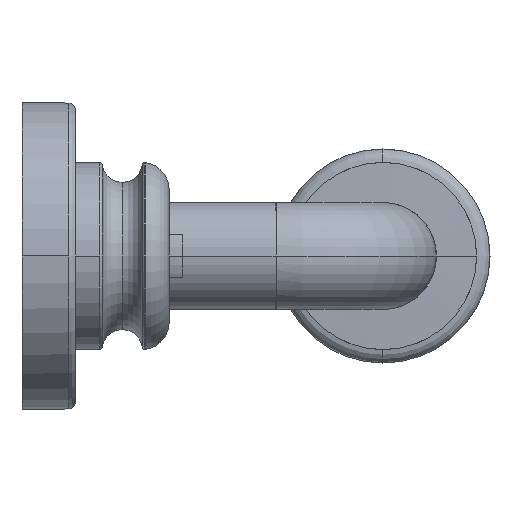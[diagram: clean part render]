
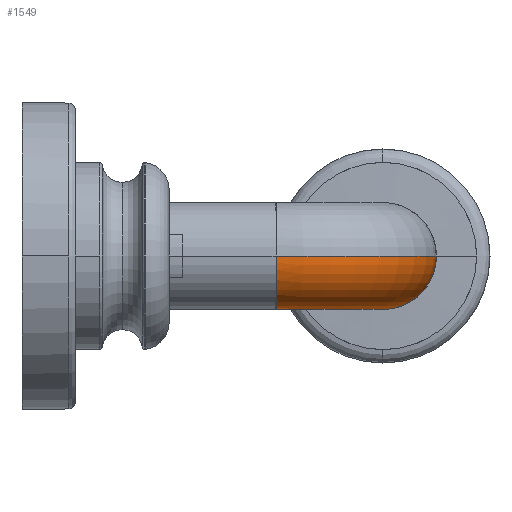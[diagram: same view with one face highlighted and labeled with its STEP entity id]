
A CAD part, left-side view. The second image highlights one B-rep face of the part: STEP entity #1549.
In plain terms, the highlighted toroidal (fillet/blend) face has major radius 8 mm and minor radius 4 mm.
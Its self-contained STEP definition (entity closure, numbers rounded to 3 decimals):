
#811 = VERTEX_POINT( '', #2172 );
#865 = VERTEX_POINT( '', #2232 );
#1059 = EDGE_CURVE( '', #1493, #1977, #2448, .T. );
#1085 = VERTEX_POINT( '', #2475 );
#1171 = VERTEX_POINT( '', #2566 );
#1313 = EDGE_CURVE( '', #1977, #811, #2726, .T. );
#1325 = EDGE_CURVE( '', #865, #1085, #2740, .T. );
#1493 = VERTEX_POINT( '', #2928 );
#1549 = ADVANCED_FACE( '', ( #2994 ), #2995, .T. );
#1569 = EDGE_CURVE( '', #811, #1171, #3017, .T. );
#1581 = EDGE_CURVE( '', #1085, #1171, #3030, .T. );
#1597 = EDGE_CURVE( '', #1493, #1891, #3046, .T. );
#1613 = EDGE_CURVE( '', #865, #1891, #3064, .T. );
#1891 = VERTEX_POINT( '', #3373 );
#1977 = VERTEX_POINT( '', #3467 );
#2172 = CARTESIAN_POINT( '', ( -4., -19., 0. ) );
#2232 = CARTESIAN_POINT( '', ( 8., -22.98, 0. ) );
#2448 = B_SPLINE_CURVE_WITH_KNOTS( '', 3, ( #4043, #4044, #4045, #4046, #4047, #4048 ), .UNSPECIFIED., .F., .F., ( 4, 2, 4 ), ( -0.008, 0., 0.012 ), .UNSPECIFIED. );
#2475 = CARTESIAN_POINT( '', ( 8., -26.99, -4. ) );
#2566 = CARTESIAN_POINT( '', ( 8., -30.98, 0. ) );
#2726 = B_SPLINE_CURVE_WITH_KNOTS( '', 3, ( #4398, #4399, #4400, #4401, #4402, #4403, #4404, #4405, #4406, #4407, #4408, #4409, #4410, #4411, #4412, #4413, #4414, #4415, #4416, #4417, #4418, #4419, #4420, #4421, #4422, #4423, #4424, #4425, #4426, #4427, #4428, #4429, #4430, #4431, #4432 ), .UNSPECIFIED., .F., .F., ( 4, 2, 2, 2, 2, 2, 2, 2, 3, 2, 2, 2, 2, 2, 2, 2, 4 ), ( 17.772, 18.512, 19.253, 19.993, 20.734, 21.474, 22.214, 22.955, 23.695, 24.436, 25.176, 25.917, 26.657, 27.398, 28.138, 28.879, 29.619 ), .UNSPECIFIED. );
#2740 = CIRCLE( '', #4447, 4. );
#2928 = CARTESIAN_POINT( '', ( 0., -18.98, -4. ) );
#2994 = FACE_OUTER_BOUND( '', #4771, .T. );
#2995 = TOROIDAL_SURFACE( '', #4772, 8., 4. );
#3017 = CIRCLE( '', #4801, 12. );
#3030 = CIRCLE( '', #4820, 4. );
#3046 = CIRCLE( '', #4841, 4. );
#3064 = CIRCLE( '', #4862, 4. );
#3373 = CARTESIAN_POINT( '', ( 4., -18.98, 0. ) );
#3467 = CARTESIAN_POINT( '', ( 0., -19., -4. ) );
#4043 = CARTESIAN_POINT( '', ( 0., -18.98, -4. ) );
#4044 = CARTESIAN_POINT( '', ( 0., -18.983, -4. ) );
#4045 = CARTESIAN_POINT( '', ( 0., -18.985, -4. ) );
#4046 = CARTESIAN_POINT( '', ( 0., -18.992, -4. ) );
#4047 = CARTESIAN_POINT( '', ( 0., -18.996, -4. ) );
#4048 = CARTESIAN_POINT( '', ( 0., -19., -4. ) );
#4398 = CARTESIAN_POINT( '', ( 0., -19., -4. ) );
#4399 = CARTESIAN_POINT( '', ( -0.247, -19., -4. ) );
#4400 = CARTESIAN_POINT( '', ( -0.516, -19., -3.976 ) );
#4401 = CARTESIAN_POINT( '', ( -1.044, -19., -3.871 ) );
#4402 = CARTESIAN_POINT( '', ( -1.303, -19., -3.79 ) );
#4403 = CARTESIAN_POINT( '', ( -1.759, -19., -3.601 ) );
#4404 = CARTESIAN_POINT( '', ( -1.998, -19., -3.475 ) );
#4405 = CARTESIAN_POINT( '', ( -2.446, -19., -3.176 ) );
#4406 = CARTESIAN_POINT( '', ( -2.654, -19., -3.003 ) );
#4407 = CARTESIAN_POINT( '', ( -3.003, -19., -2.654 ) );
#4408 = CARTESIAN_POINT( '', ( -3.176, -19., -2.446 ) );
#4409 = CARTESIAN_POINT( '', ( -3.475, -19., -1.998 ) );
#4410 = CARTESIAN_POINT( '', ( -3.601, -19., -1.759 ) );
#4411 = CARTESIAN_POINT( '', ( -3.79, -19., -1.303 ) );
#4412 = CARTESIAN_POINT( '', ( -3.871, -19., -1.044 ) );
#4413 = CARTESIAN_POINT( '', ( -3.976, -19., -0.516 ) );
#4414 = CARTESIAN_POINT( '', ( -4., -19., -0.247 ) );
#4415 = CARTESIAN_POINT( '', ( -4., -19., 0. ) );
#4416 = CARTESIAN_POINT( '', ( -4., -19., 0.247 ) );
#4417 = CARTESIAN_POINT( '', ( -3.976, -19., 0.516 ) );
#4418 = CARTESIAN_POINT( '', ( -3.871, -19., 1.044 ) );
#4419 = CARTESIAN_POINT( '', ( -3.79, -19., 1.303 ) );
#4420 = CARTESIAN_POINT( '', ( -3.601, -19., 1.759 ) );
#4421 = CARTESIAN_POINT( '', ( -3.475, -19., 1.998 ) );
#4422 = CARTESIAN_POINT( '', ( -3.176, -19., 2.446 ) );
#4423 = CARTESIAN_POINT( '', ( -3.003, -19., 2.654 ) );
#4424 = CARTESIAN_POINT( '', ( -2.654, -19., 3.003 ) );
#4425 = CARTESIAN_POINT( '', ( -2.446, -19., 3.176 ) );
#4426 = CARTESIAN_POINT( '', ( -1.998, -19., 3.475 ) );
#4427 = CARTESIAN_POINT( '', ( -1.759, -19., 3.601 ) );
#4428 = CARTESIAN_POINT( '', ( -1.303, -19., 3.79 ) );
#4429 = CARTESIAN_POINT( '', ( -1.044, -19., 3.871 ) );
#4430 = CARTESIAN_POINT( '', ( -0.516, -19., 3.976 ) );
#4431 = CARTESIAN_POINT( '', ( -0.247, -19., 4. ) );
#4432 = CARTESIAN_POINT( '', ( 0., -19., 4. ) );
#4447 = AXIS2_PLACEMENT_3D( '', #6413, #6414, #6415 );
#4771 = EDGE_LOOP( '', ( #6780, #6781, #6782, #6783, #6784, #6785, #6786 ) );
#4772 = AXIS2_PLACEMENT_3D( '', #6787, #6788, #6789 );
#4801 = AXIS2_PLACEMENT_3D( '', #6826, #6827, #6828 );
#4820 = AXIS2_PLACEMENT_3D( '', #6847, #6848, #6849 );
#4841 = AXIS2_PLACEMENT_3D( '', #6862, #6863, #6864 );
#4862 = AXIS2_PLACEMENT_3D( '', #6888, #6889, #6890 );
#6413 = CARTESIAN_POINT( '', ( 8., -26.98, 0. ) );
#6414 = DIRECTION( '', ( -1., 0., 0. ) );
#6415 = DIRECTION( '', ( 0., 1., 0. ) );
#6780 = ORIENTED_EDGE( '', *, *, #1569, .F. );
#6781 = ORIENTED_EDGE( '', *, *, #1313, .F. );
#6782 = ORIENTED_EDGE( '', *, *, #1059, .F. );
#6783 = ORIENTED_EDGE( '', *, *, #1597, .T. );
#6784 = ORIENTED_EDGE( '', *, *, #1613, .F. );
#6785 = ORIENTED_EDGE( '', *, *, #1325, .T. );
#6786 = ORIENTED_EDGE( '', *, *, #1581, .T. );
#6787 = CARTESIAN_POINT( '', ( 8., -18.98, 0. ) );
#6788 = DIRECTION( '', ( 0., 0., 1. ) );
#6789 = DIRECTION( '', ( 1., 0., 0. ) );
#6826 = CARTESIAN_POINT( '', ( 8., -18.98, 0. ) );
#6827 = DIRECTION( '', ( 0., 0., 1. ) );
#6828 = DIRECTION( '', ( 1., 0., 0. ) );
#6847 = CARTESIAN_POINT( '', ( 8., -26.98, 0. ) );
#6848 = DIRECTION( '', ( -1., 0., 0. ) );
#6849 = DIRECTION( '', ( 0., 1., 0. ) );
#6862 = CARTESIAN_POINT( '', ( 0., -18.98, 0. ) );
#6863 = DIRECTION( '', ( 0., -1., 0. ) );
#6864 = DIRECTION( '', ( -1., 0., 0. ) );
#6888 = CARTESIAN_POINT( '', ( 8., -18.98, 0. ) );
#6889 = DIRECTION( '', ( 0., 0., -1. ) );
#6890 = DIRECTION( '', ( 1., 0., 0. ) );
